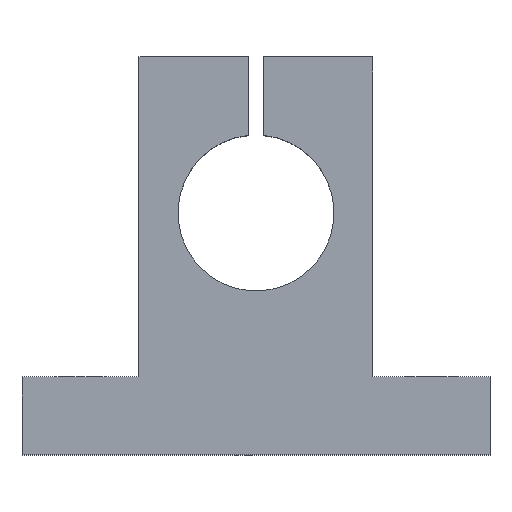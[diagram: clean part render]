
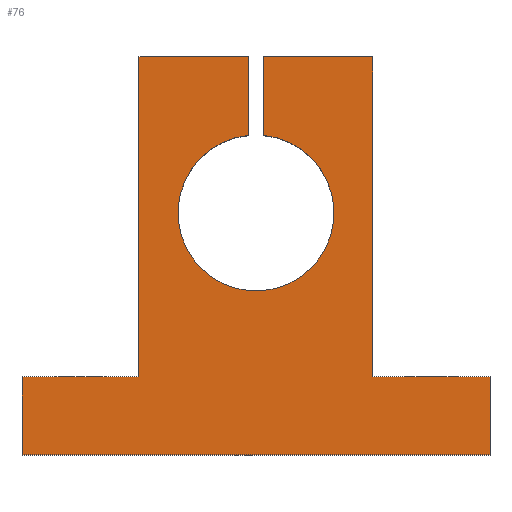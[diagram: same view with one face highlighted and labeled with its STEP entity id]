
A CAD part, top view. The second image highlights one B-rep face of the part: STEP entity #76.
In plain terms, the highlighted planar face has unit normal (0, 0, 1).
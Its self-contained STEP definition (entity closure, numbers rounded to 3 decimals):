
#76 = ADVANCED_FACE( '', ( #94 ), #95, .T. );
#94 = FACE_OUTER_BOUND( '', #132, .T. );
#95 = PLANE( '', #133 );
#132 = EDGE_LOOP( '', ( #175, #176, #177, #178, #179, #180, #181, #182, #183, #184, #185, #186 ) );
#133 = AXIS2_PLACEMENT_3D( '', #187, #188, #189 );
#175 = ORIENTED_EDGE( '', *, *, #300, .T. );
#176 = ORIENTED_EDGE( '', *, *, #301, .T. );
#177 = ORIENTED_EDGE( '', *, *, #302, .T. );
#178 = ORIENTED_EDGE( '', *, *, #303, .T. );
#179 = ORIENTED_EDGE( '', *, *, #304, .T. );
#180 = ORIENTED_EDGE( '', *, *, #305, .T. );
#181 = ORIENTED_EDGE( '', *, *, #306, .T. );
#182 = ORIENTED_EDGE( '', *, *, #307, .T. );
#183 = ORIENTED_EDGE( '', *, *, #308, .F. );
#184 = ORIENTED_EDGE( '', *, *, #309, .T. );
#185 = ORIENTED_EDGE( '', *, *, #310, .T. );
#186 = ORIENTED_EDGE( '', *, *, #298, .T. );
#187 = CARTESIAN_POINT( '', ( 0., 31., 10. ) );
#188 = DIRECTION( '', ( 0., 0., 1. ) );
#189 = DIRECTION( '', ( 1., 0., 0. ) );
#298 = EDGE_CURVE( '', #341, #339, #342, .T. );
#300 = EDGE_CURVE( '', #339, #344, #345, .T. );
#301 = EDGE_CURVE( '', #344, #346, #347, .T. );
#302 = EDGE_CURVE( '', #346, #348, #349, .T. );
#303 = EDGE_CURVE( '', #348, #350, #351, .T. );
#304 = EDGE_CURVE( '', #350, #352, #353, .T. );
#305 = EDGE_CURVE( '', #352, #354, #355, .T. );
#306 = EDGE_CURVE( '', #354, #356, #357, .T. );
#307 = EDGE_CURVE( '', #356, #358, #359, .T. );
#308 = EDGE_CURVE( '', #360, #358, #361, .T. );
#309 = EDGE_CURVE( '', #360, #362, #363, .T. );
#310 = EDGE_CURVE( '', #362, #341, #364, .T. );
#339 = VERTEX_POINT( '', #408 );
#341 = VERTEX_POINT( '', #411 );
#342 = LINE( '', #412, #413 );
#344 = VERTEX_POINT( '', #416 );
#345 = LINE( '', #417, #418 );
#346 = VERTEX_POINT( '', #419 );
#347 = LINE( '', #420, #421 );
#348 = VERTEX_POINT( '', #422 );
#349 = LINE( '', #423, #424 );
#350 = VERTEX_POINT( '', #425 );
#351 = LINE( '', #426, #427 );
#352 = VERTEX_POINT( '', #428 );
#353 = LINE( '', #429, #430 );
#354 = VERTEX_POINT( '', #431 );
#355 = LINE( '', #432, #433 );
#356 = VERTEX_POINT( '', #434 );
#357 = LINE( '', #435, #436 );
#358 = VERTEX_POINT( '', #437 );
#359 = LINE( '', #438, #439 );
#360 = VERTEX_POINT( '', #440 );
#361 = CIRCLE( '', #441, 10. );
#362 = VERTEX_POINT( '', #442 );
#363 = LINE( '', #443, #444 );
#364 = LINE( '', #445, #446 );
#408 = CARTESIAN_POINT( '', ( -15., 10., 10. ) );
#411 = CARTESIAN_POINT( '', ( -15., 51., 10. ) );
#412 = CARTESIAN_POINT( '', ( -15., 51., 10. ) );
#413 = VECTOR( '', #508, 1000. );
#416 = CARTESIAN_POINT( '', ( -30., 10., 10. ) );
#417 = CARTESIAN_POINT( '', ( -15., 10., 10. ) );
#418 = VECTOR( '', #510, 1000. );
#419 = CARTESIAN_POINT( '', ( -30., 0., 10. ) );
#420 = CARTESIAN_POINT( '', ( -30., 10., 10. ) );
#421 = VECTOR( '', #511, 1000. );
#422 = CARTESIAN_POINT( '', ( 30., 0., 10. ) );
#423 = CARTESIAN_POINT( '', ( -30., 0., 10. ) );
#424 = VECTOR( '', #512, 1000. );
#425 = CARTESIAN_POINT( '', ( 30., 10., 10. ) );
#426 = CARTESIAN_POINT( '', ( 30., 0., 10. ) );
#427 = VECTOR( '', #513, 1000. );
#428 = CARTESIAN_POINT( '', ( 15., 10., 10. ) );
#429 = CARTESIAN_POINT( '', ( 30., 10., 10. ) );
#430 = VECTOR( '', #514, 1000. );
#431 = CARTESIAN_POINT( '', ( 15., 51., 10. ) );
#432 = CARTESIAN_POINT( '', ( 15., 10., 10. ) );
#433 = VECTOR( '', #515, 1000. );
#434 = CARTESIAN_POINT( '', ( 1., 51., 10. ) );
#435 = CARTESIAN_POINT( '', ( 15., 51., 10. ) );
#436 = VECTOR( '', #516, 1000. );
#437 = CARTESIAN_POINT( '', ( 1., 40.95, 10. ) );
#438 = CARTESIAN_POINT( '', ( 1., 51., 10. ) );
#439 = VECTOR( '', #517, 1000. );
#440 = CARTESIAN_POINT( '', ( -1., 40.95, 10. ) );
#441 = AXIS2_PLACEMENT_3D( '', #518, #519, #520 );
#442 = CARTESIAN_POINT( '', ( -1., 51., 10. ) );
#443 = CARTESIAN_POINT( '', ( -1., 40.95, 10. ) );
#444 = VECTOR( '', #521, 1000. );
#445 = CARTESIAN_POINT( '', ( -1., 51., 10. ) );
#446 = VECTOR( '', #522, 1000. );
#508 = DIRECTION( '', ( 0., -1., 0. ) );
#510 = DIRECTION( '', ( -1., 0., 0. ) );
#511 = DIRECTION( '', ( 0., -1., 0. ) );
#512 = DIRECTION( '', ( 1., 0., 0. ) );
#513 = DIRECTION( '', ( 0., 1., 0. ) );
#514 = DIRECTION( '', ( -1., 0., 0. ) );
#515 = DIRECTION( '', ( 0., 1., 0. ) );
#516 = DIRECTION( '', ( -1., 0., 0. ) );
#517 = DIRECTION( '', ( 0., -1., 0. ) );
#518 = CARTESIAN_POINT( '', ( 0., 31., 10. ) );
#519 = DIRECTION( '', ( 0., 0., 1. ) );
#520 = DIRECTION( '', ( 1., 0., 0. ) );
#521 = DIRECTION( '', ( 0., 1., 0. ) );
#522 = DIRECTION( '', ( -1., 0., 0. ) );
